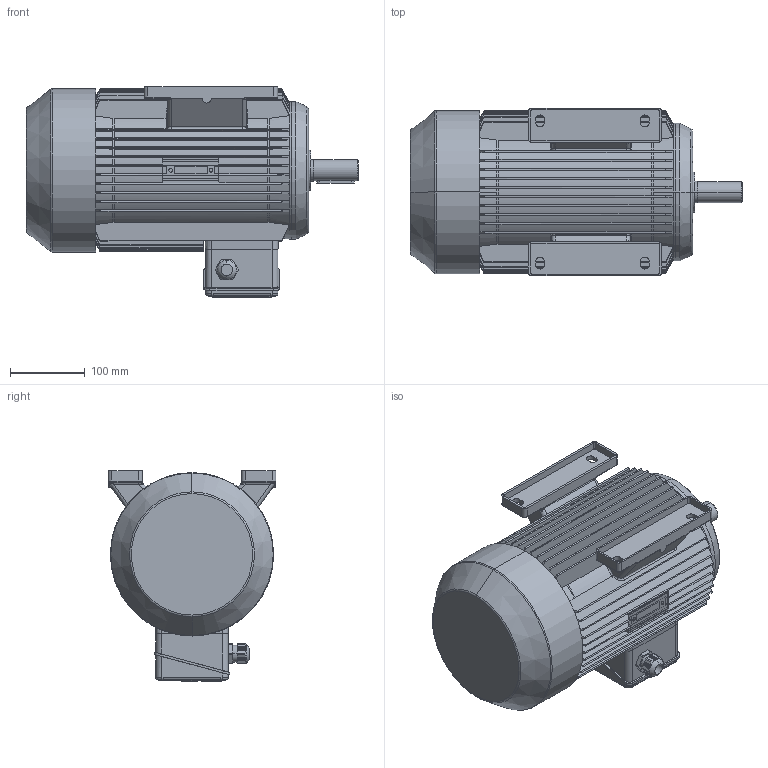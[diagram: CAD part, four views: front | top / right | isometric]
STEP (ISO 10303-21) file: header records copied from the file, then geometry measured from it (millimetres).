
FILE_DESCRIPTION (( 'STEP AP214' ), '1' );
FILE_NAME ('MAP112M6A IM1041.STEP', '2021-03-05T14:17:44', ( '' ), ( '' ), 'SwSTEP 2.0', 'SolidWorks 2018', '' );
FILE_SCHEMA (( 'AUTOMOTIVE_DESIGN' ));
Length unit declared in the file: millimetre
Products named in the file (1): MAP112M6A IM1041
Bounding box: 444 x 224.5 x 282 mm (x, y, z)
Volume: 12079422.1 mm3; surface area: 781333.2 mm2
Topology: 3 solids, 8 shells, 1315 faces, 3497 edges, 2233 vertices
Faces by surface type: plane 542, cylinder 284, bspline 201, cone 145, torus 141, sphere 2
Entity records: 53958 total; most frequent: CARTESIAN_POINT 23586, ORIENTED_EDGE 6982, DIRECTION 5462, EDGE_CURVE 3491, VERTEX_POINT 2233, AXIS2_PLACEMENT_3D 1955, VECTOR 1552, LINE 1552
